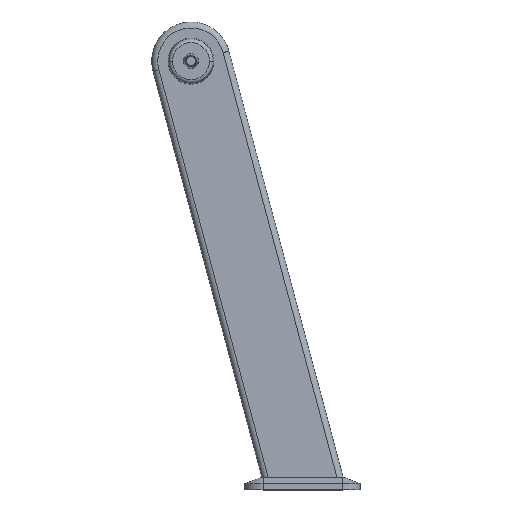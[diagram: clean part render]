
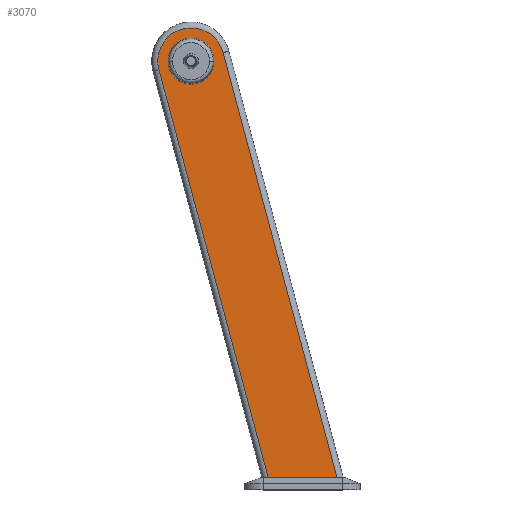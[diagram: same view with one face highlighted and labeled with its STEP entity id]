
A CAD part, top view. The second image highlights one B-rep face of the part: STEP entity #3070.
In plain terms, the highlighted planar face has unit normal (0, 0, 1).
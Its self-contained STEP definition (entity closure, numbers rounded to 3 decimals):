
#16 = DIRECTION ( 'NONE',  ( 1., 0., 0. ) ) ;
#235 = CARTESIAN_POINT ( 'NONE',  ( 0., 0., 31.25 ) ) ;
#487 = DIRECTION ( 'NONE',  ( 1., 0., 0. ) ) ;
#634 = CARTESIAN_POINT ( 'NONE',  ( -38., 0., 31.25 ) ) ;
#655 = VERTEX_POINT ( 'NONE', #1113 ) ;
#680 = DIRECTION ( 'NONE',  ( 0.259, -0.966, 0. ) ) ;
#684 = ORIENTED_EDGE ( 'NONE', *, *, #2331, .T. ) ;
#861 = CARTESIAN_POINT ( 'NONE',  ( 241.825, -690., 31.25 ) ) ;
#873 = CARTESIAN_POINT ( 'NONE',  ( 0., 0., 31.25 ) ) ;
#880 = DIRECTION ( 'NONE',  ( 0., 0., 1. ) ) ;
#897 = ORIENTED_EDGE ( 'NONE', *, *, #2158, .T. ) ;
#976 = ORIENTED_EDGE ( 'NONE', *, *, #1341, .F. ) ;
#1012 = CARTESIAN_POINT ( 'NONE',  ( 0., 0., 31.25 ) ) ;
#1070 = FACE_BOUND ( 'NONE', #1413, .T. ) ;
#1113 = CARTESIAN_POINT ( 'NONE',  ( 53.126, 14.235, 31.25 ) ) ;
#1117 = VECTOR ( 'NONE', #2931, 1000. ) ;
#1135 = DIRECTION ( 'NONE',  ( 1., 0., 0. ) ) ;
#1181 = VERTEX_POINT ( 'NONE', #2412 ) ;
#1341 = EDGE_CURVE ( 'NONE', #2752, #2806, #2551, .T. ) ;
#1363 = ORIENTED_EDGE ( 'NONE', *, *, #1828, .T. ) ;
#1413 = EDGE_LOOP ( 'NONE', ( #3150, #976 ) ) ;
#1425 = CARTESIAN_POINT ( 'NONE',  ( 38., 0., 31.25 ) ) ;
#1518 = DIRECTION ( 'NONE',  ( 0., 0., 1. ) ) ;
#1584 = CIRCLE ( 'NONE', #2026, 55. ) ;
#1640 = VERTEX_POINT ( 'NONE', #861 ) ;
#1661 = EDGE_CURVE ( 'NONE', #1181, #1640, #3014, .T. ) ;
#1828 = EDGE_CURVE ( 'NONE', #2528, #1181, #2629, .T. ) ;
#1937 = AXIS2_PLACEMENT_3D ( 'NONE', #235, #1982, #487 ) ;
#1982 = DIRECTION ( 'NONE',  ( 0., 0., 1. ) ) ;
#1994 = PLANE ( 'NONE',  #2946 ) ;
#2026 = AXIS2_PLACEMENT_3D ( 'NONE', #2374, #880, #2625 ) ;
#2158 = EDGE_CURVE ( 'NONE', #655, #2528, #1584, .T. ) ;
#2171 = CARTESIAN_POINT ( 'NONE',  ( 132.61, -707.412, 31.25 ) ) ;
#2256 = CARTESIAN_POINT ( 'NONE',  ( -53.126, -14.235, 31.25 ) ) ;
#2331 = EDGE_CURVE ( 'NONE', #1640, #655, #2511, .T. ) ;
#2367 = CARTESIAN_POINT ( 'NONE',  ( 0., -690., 31.25 ) ) ;
#2374 = CARTESIAN_POINT ( 'NONE',  ( 0., 0., 31.25 ) ) ;
#2412 = CARTESIAN_POINT ( 'NONE',  ( 127.945, -690., 31.25 ) ) ;
#2511 = LINE ( 'NONE', #3186, #1117 ) ;
#2528 = VERTEX_POINT ( 'NONE', #2256 ) ;
#2551 = CIRCLE ( 'NONE', #1937, 38. ) ;
#2623 = DIRECTION ( 'NONE',  ( 0., 0., 1. ) ) ;
#2625 = DIRECTION ( 'NONE',  ( 1., 0., 0. ) ) ;
#2629 = LINE ( 'NONE', #2171, #3101 ) ;
#2719 = EDGE_CURVE ( 'NONE', #2806, #2752, #2742, .T. ) ;
#2742 = CIRCLE ( 'NONE', #3072, 38. ) ;
#2752 = VERTEX_POINT ( 'NONE', #634 ) ;
#2806 = VERTEX_POINT ( 'NONE', #1425 ) ;
#2848 = EDGE_LOOP ( 'NONE', ( #684, #897, #1363, #2890 ) ) ;
#2856 = DIRECTION ( 'NONE',  ( 1., 0., 0. ) ) ;
#2890 = ORIENTED_EDGE ( 'NONE', *, *, #1661, .T. ) ;
#2931 = DIRECTION ( 'NONE',  ( -0.259, 0.966, 0. ) ) ;
#2936 = VECTOR ( 'NONE', #2856, 1000. ) ;
#2946 = AXIS2_PLACEMENT_3D ( 'NONE', #1012, #1518, #16 ) ;
#3014 = LINE ( 'NONE', #2367, #2936 ) ;
#3070 = ADVANCED_FACE ( 'NONE', ( #3131, #1070 ), #1994, .T. ) ;
#3072 = AXIS2_PLACEMENT_3D ( 'NONE', #873, #2623, #1135 ) ;
#3101 = VECTOR ( 'NONE', #680, 1000. ) ;
#3131 = FACE_OUTER_BOUND ( 'NONE', #2848, .T. ) ;
#3150 = ORIENTED_EDGE ( 'NONE', *, *, #2719, .F. ) ;
#3186 = CARTESIAN_POINT ( 'NONE',  ( 53.126, 14.235, 31.25 ) ) ;
